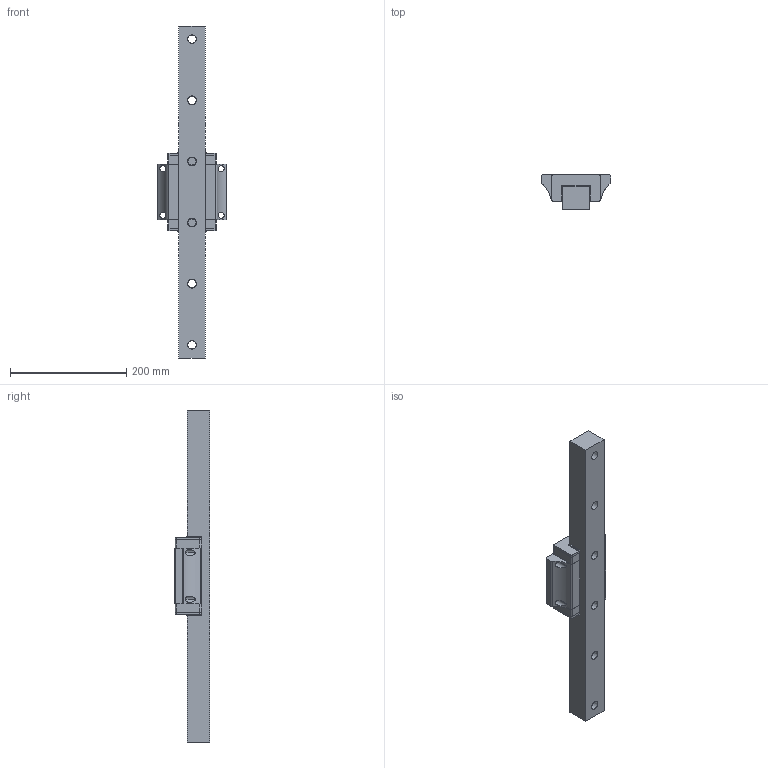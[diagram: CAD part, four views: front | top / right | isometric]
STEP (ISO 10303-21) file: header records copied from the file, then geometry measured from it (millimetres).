
FILE_DESCRIPTION((''),'2;1');
FILE_NAME('E:\PDF郪磁芞\DFH45A.STP','2018-01-27T14:13:30',(''),(''),'STEP Write','Mastercam V9 ... CNC Software, Inc.','');
FILE_SCHEMA(('CONFIG_CONTROL_DESIGN'));
Length unit declared in the file: millimetre
Bounding box: 120 x 60.1 x 570 mm (x, y, z)
Volume: 1365367.5 mm3; surface area: 184914.6 mm2
Topology: 6 solids, 6 shells, 136 faces, 614 edges, 756 vertices
Faces by surface type: plane 84, cylinder 40, cone 12
Full cylindrical faces by diameter (mm): 14 x6, 20 x6
Entity records: 7324 total; most frequent: CARTESIAN_POINT 2856, DIRECTION 964, ORIENTED_EDGE 660, VECTOR 400, LINE 400, EDGE_CURVE 330, AXIS2_PLACEMENT_3D 282, TRIMMED_CURVE 252
